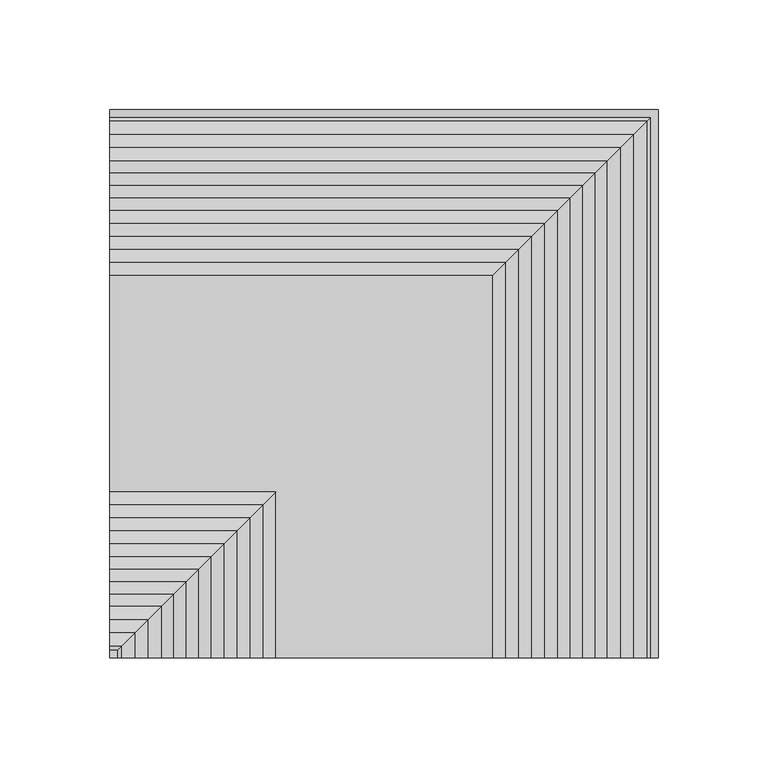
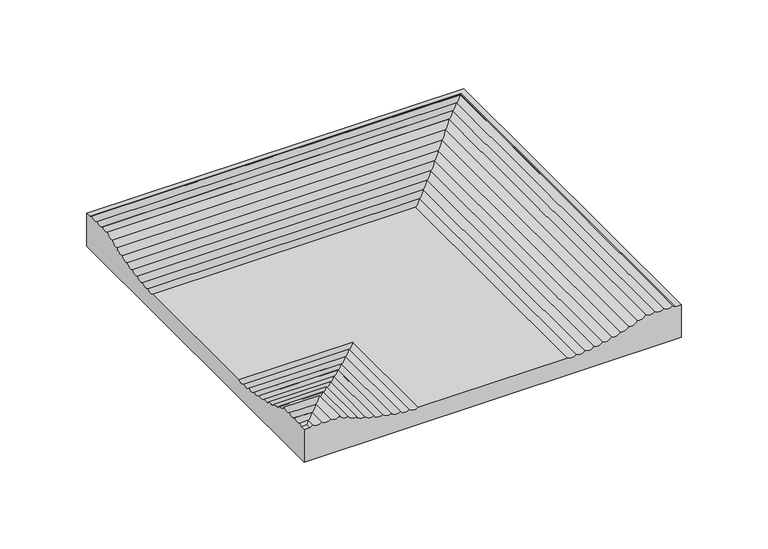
"""IFC4 building model written with IfcOpenShell, lengths in millimetres: proxy geometry, ROSA GRES_204 Esquina : Pieza 204_Aqua_Indubeige_Tecno."""

from ifc_helpers import new_model, si_unit, frame, origin, place, context, project, spatial, polyline, circle_curve, ellipse_curve, source, transform, mapped, element, save
from ifc_brep_helpers import plane_surface, revolved_surface, advanced_brep


def generic_models_6bb356cf(model_context):
    return source(origin(), model_context, "Body", "AdvancedBrep", [
        advanced_brep(
        [(0.0, 246.7435851, 22.8672484), (0.0, 250.2270236, 22.8672484), (0.0, 250.2270236, 0.0), (0.0, 0.0, 0.0), (0.0, 0.0, 22.8672484), (0.0, 3.4834385, 22.8672484), (0.0, 5.3933441, 24.1254722), (0.0, 11.4768535, 24.0443215), (0.0, 17.4838192, 24.0385354), (0.0, 23.5481555, 24.1126825), (0.0, 29.0929084, 21.702672), (0.0, 34.6740913, 19.6629784), (0.0, 40.406127, 17.7784107), (0.0, 46.146977, 16.2504407), (0.0, 52.0386105, 14.9241491), (0.0, 57.8759715, 13.8344915), (0.0, 63.8574067, 12.9927609), (0.0, 69.7580788, 12.3552884), (0.0, 75.6586011, 11.9299493), (0.0, 174.5684226, 11.9299493), (0.0, 180.4689448, 12.3552884), (0.0, 186.3696169, 12.9927609), (0.0, 192.3510521, 13.8344915), (0.0, 198.1884131, 14.9241491), (0.0, 204.0800466, 16.2504407), (0.0, 209.8208966, 17.7784107), (0.0, 215.5529324, 19.6629784), (0.0, 221.1341153, 21.702672), (0.0, 226.6788681, 24.1126825), (0.0, 232.7432044, 24.0385354), (0.0, 238.7501701, 24.0443215), (0.0, 244.8336795, 24.1254722), (246.7435851, 0.0, 22.8672484), (244.8336795, 0.0, 24.1254722), (238.7501701, 0.0, 24.0443215), (232.7432044, 0.0, 24.0385354), (226.6788681, 0.0, 24.1126825), (221.1341153, 0.0, 21.702672), (215.5529324, 0.0, 19.6629784), (209.8208966, 0.0, 17.7784107), (204.0800466, 0.0, 16.2504407), (198.1884131, 0.0, 14.9241491), (192.3510521, 0.0, 13.8344915), (186.3696169, 0.0, 12.9927609), (180.4689448, 0.0, 12.3552884), (174.5684226, 0.0, 11.9299493), (75.6586011, 0.0, 11.9299493), (69.7580788, 0.0, 12.3552884), (63.8574067, 0.0, 12.9927609), (57.8759715, 0.0, 13.8344915), (52.0386105, 0.0, 14.9241491), (46.146977, 0.0, 16.2504407), (40.406127, 0.0, 17.7784107), (34.6740913, 0.0, 19.6629784), (29.0929084, 0.0, 21.702672), (23.5481555, 0.0, 24.1126825), (17.4838192, 0.0, 24.0385354), (11.4768535, 0.0, 24.0443215), (5.3933441, 0.0, 24.1254722), (3.4834385, 0.0, 22.8672484), (250.2270236, 0.0, 0.0), (250.2270236, 0.0, 22.8672484), (246.7435851, 246.7435851, 22.8672484), (250.2270236, 250.2270236, 22.8672484), (250.2270236, 250.2270236, 0.0), (3.4834385, 3.4834385, 22.8672484), (5.3933441, 5.3933441, 24.1254722), (11.4768535, 11.4768535, 24.0443215), (17.4838192, 17.4838192, 24.0385354), (23.5481555, 23.5481555, 24.1126825), (29.0929084, 29.0929084, 21.702672), (34.6740913, 34.6740913, 19.6629784), (40.406127, 40.406127, 17.7784107), (46.146977, 46.146977, 16.2504407), (52.0386105, 52.0386105, 14.9241491), (57.8759715, 57.8759715, 13.8344915), (63.8574067, 63.8574067, 12.9927609), (69.7580788, 69.7580788, 12.3552884), (75.6586011, 75.6586011, 11.9299493), (174.5684226, 174.5684226, 11.9299493), (180.4689448, 180.4689448, 12.3552884), (186.3696169, 186.3696169, 12.9927609), (192.3510521, 192.3510521, 13.8344915), (198.1884131, 198.1884131, 14.9241491), (204.0800466, 204.0800466, 16.2504407), (209.8208966, 209.8208966, 17.7784107), (215.5529324, 215.5529324, 19.6629784), (221.1341153, 221.1341153, 21.702672), (226.6788681, 226.6788681, 24.1126825), (232.7432044, 232.7432044, 24.0385354), (238.7501701, 238.7501701, 24.0443215), (244.8336795, 244.8336795, 24.1254722)],
        [
            (0, 1),
            (1, 2),
            (2, 3),
            (3, 4),
            (4, 5),
            (5, 6, circle_curve(frame((0.0, 3.4834385, 24.9459193), z_axis=(1.0, 0.0, 0.0), x_axis=(0.0, 1.0, 0.0)), 2.078671)),
            (6, 7, circle_curve(frame((0.0, 8.4772441, 27.2443435), z_axis=(1.0, 0.0, 0.0), x_axis=(0.0, 1.0, 0.0)), 4.3860914)),
            (7, 8, circle_curve(frame((0.0, 14.4834385, 27.2619892), z_axis=(1.0, 0.0, 0.0), x_axis=(0.0, 1.0, 0.0)), 4.4037415)),
            (8, 9, circle_curve(frame((0.0, 20.4772441, 27.2443435), z_axis=(1.0, 0.0, 0.0), x_axis=(0.0, 1.0, 0.0)), 4.3860914)),
            (9, 10, circle_curve(frame((0.0, 27.5873515, 25.8222711), z_axis=(1.0, 0.0, 0.0), x_axis=(0.0, 1.0, 0.0)), 4.3860914)),
            (10, 11, circle_curve(frame((0.0, 32.9910112, 23.7132919), z_axis=(1.0, 0.0, 0.0), x_axis=(0.0, 1.0, 0.0)), 4.3860914)),
            (11, 12, circle_curve(frame((0.0, 38.5344705, 21.7451095), z_axis=(1.0, 0.0, 0.0), x_axis=(0.0, 1.0, 0.0)), 4.3860914)),
            (12, 13, circle_curve(frame((0.0, 44.1065968, 20.1330489), z_axis=(1.0, 0.0, 0.0), x_axis=(0.0, 1.0, 0.0)), 4.3860914)),
            (13, 14, circle_curve(frame((0.0, 49.7914497, 18.690854), z_axis=(1.0, 0.0, 0.0), x_axis=(0.0, 1.0, 0.0)), 4.3860914)),
            (14, 15, circle_curve(frame((0.0, 55.5496933, 17.5528551), z_axis=(1.0, 0.0, 0.0), x_axis=(0.0, 1.0, 0.0)), 4.3860914)),
            (15, 16, circle_curve(frame((0.0, 61.3099097, 16.563203), z_axis=(1.0, 0.0, 0.0), x_axis=(0.0, 1.0, 0.0)), 4.3860914)),
            (16, 17, circle_curve(frame((0.0, 67.1546539, 15.8851576), z_axis=(1.0, 0.0, 0.0), x_axis=(0.0, 1.0, 0.0)), 4.3860914)),
            (17, 18, circle_curve(frame((0.0, 72.9411902, 15.372837), z_axis=(1.0, 0.0, 0.0), x_axis=(0.0, 1.0, 0.0)), 4.3860914)),
            (18, 19),
            (19, 20, circle_curve(frame((0.0, 177.2858334, 15.372837), z_axis=(1.0, 0.0, 0.0), x_axis=(0.0, 1.0, 0.0)), 4.3860914)),
            (20, 21, circle_curve(frame((0.0, 183.0723697, 15.8851576), z_axis=(1.0, 0.0, 0.0), x_axis=(0.0, 1.0, 0.0)), 4.3860914)),
            (21, 22, circle_curve(frame((0.0, 188.917114, 16.563203), z_axis=(1.0, 0.0, 0.0), x_axis=(0.0, 1.0, 0.0)), 4.3860914)),
            (22, 23, circle_curve(frame((0.0, 194.6773303, 17.5528551), z_axis=(1.0, 0.0, 0.0), x_axis=(0.0, 1.0, 0.0)), 4.3860914)),
            (23, 24, circle_curve(frame((0.0, 200.435574, 18.690854), z_axis=(1.0, 0.0, 0.0), x_axis=(0.0, 1.0, 0.0)), 4.3860914)),
            (24, 25, circle_curve(frame((0.0, 206.1204268, 20.1330489), z_axis=(1.0, 0.0, 0.0), x_axis=(0.0, 1.0, 0.0)), 4.3860914)),
            (25, 26, circle_curve(frame((0.0, 211.6925532, 21.7451095), z_axis=(1.0, 0.0, 0.0), x_axis=(0.0, 1.0, 0.0)), 4.3860914)),
            (26, 27, circle_curve(frame((0.0, 217.2360124, 23.7132919), z_axis=(1.0, 0.0, 0.0), x_axis=(0.0, 1.0, 0.0)), 4.3860914)),
            (27, 28, circle_curve(frame((0.0, 222.6396721, 25.8222711), z_axis=(1.0, 0.0, 0.0), x_axis=(0.0, 1.0, 0.0)), 4.3860914)),
            (28, 29, circle_curve(frame((0.0, 229.7497795, 27.2443435), z_axis=(1.0, 0.0, 0.0), x_axis=(0.0, 1.0, 0.0)), 4.3860914)),
            (29, 30, circle_curve(frame((0.0, 235.7435851, 27.2619892), z_axis=(1.0, 0.0, 0.0), x_axis=(0.0, 1.0, 0.0)), 4.4037415)),
            (30, 31, circle_curve(frame((0.0, 241.7497795, 27.2443435), z_axis=(1.0, 0.0, 0.0), x_axis=(0.0, 1.0, 0.0)), 4.3860914)),
            (31, 0, circle_curve(frame((0.0, 246.7435851, 24.9459193), z_axis=(1.0, 0.0, 0.0), x_axis=(0.0, 1.0, 0.0)), 2.078671)),
            (32, 33, circle_curve(frame((246.7435851, 0.0, 24.9459193), z_axis=(0.0, 1.0, 0.0), x_axis=(1.0, 0.0, 0.0)), 2.078671)),
            (33, 34, circle_curve(frame((241.7497795, 0.0, 27.2443435), z_axis=(0.0, 1.0, 0.0), x_axis=(1.0, 0.0, 0.0)), 4.3860914)),
            (34, 35, circle_curve(frame((235.7435851, 0.0, 27.2619892), z_axis=(0.0, 1.0, 0.0), x_axis=(1.0, 0.0, 0.0)), 4.4037415)),
            (35, 36, circle_curve(frame((229.7497795, 0.0, 27.2443435), z_axis=(0.0, 1.0, 0.0), x_axis=(1.0, 0.0, 0.0)), 4.3860914)),
            (36, 37, circle_curve(frame((222.6396721, 0.0, 25.8222711), z_axis=(0.0, 1.0, 0.0), x_axis=(1.0, 0.0, 0.0)), 4.3860914)),
            (37, 38, circle_curve(frame((217.2360124, 0.0, 23.7132919), z_axis=(0.0, 1.0, 0.0), x_axis=(1.0, 0.0, 0.0)), 4.3860914)),
            (38, 39, circle_curve(frame((211.6925532, 0.0, 21.7451095), z_axis=(0.0, 1.0, 0.0), x_axis=(1.0, 0.0, 0.0)), 4.3860914)),
            (39, 40, circle_curve(frame((206.1204268, 0.0, 20.1330489), z_axis=(0.0, 1.0, 0.0), x_axis=(1.0, 0.0, 0.0)), 4.3860914)),
            (40, 41, circle_curve(frame((200.435574, 0.0, 18.690854), z_axis=(0.0, 1.0, 0.0), x_axis=(1.0, 0.0, 0.0)), 4.3860914)),
            (41, 42, circle_curve(frame((194.6773303, 0.0, 17.5528551), z_axis=(0.0, 1.0, 0.0), x_axis=(1.0, 0.0, 0.0)), 4.3860914)),
            (42, 43, circle_curve(frame((188.917114, 0.0, 16.563203), z_axis=(0.0, 1.0, 0.0), x_axis=(1.0, 0.0, 0.0)), 4.3860914)),
            (43, 44, circle_curve(frame((183.0723697, 0.0, 15.8851576), z_axis=(0.0, 1.0, 0.0), x_axis=(1.0, 0.0, 0.0)), 4.3860914)),
            (44, 45, circle_curve(frame((177.2858334, 0.0, 15.372837), z_axis=(0.0, 1.0, 0.0), x_axis=(1.0, 0.0, 0.0)), 4.3860914)),
            (45, 46),
            (46, 47, circle_curve(frame((72.9411902, 0.0, 15.372837), z_axis=(0.0, 1.0, 0.0), x_axis=(1.0, 0.0, 0.0)), 4.3860914)),
            (47, 48, circle_curve(frame((67.1546539, 0.0, 15.8851576), z_axis=(0.0, 1.0, 0.0), x_axis=(1.0, 0.0, 0.0)), 4.3860914)),
            (48, 49, circle_curve(frame((61.3099097, 0.0, 16.563203), z_axis=(0.0, 1.0, 0.0), x_axis=(1.0, 0.0, 0.0)), 4.3860914)),
            (49, 50, circle_curve(frame((55.5496933, 0.0, 17.5528551), z_axis=(0.0, 1.0, 0.0), x_axis=(1.0, 0.0, 0.0)), 4.3860914)),
            (50, 51, circle_curve(frame((49.7914497, 0.0, 18.690854), z_axis=(0.0, 1.0, 0.0), x_axis=(1.0, 0.0, 0.0)), 4.3860914)),
            (51, 52, circle_curve(frame((44.1065968, 0.0, 20.1330489), z_axis=(0.0, 1.0, 0.0), x_axis=(1.0, 0.0, 0.0)), 4.3860914)),
            (52, 53, circle_curve(frame((38.5344705, 0.0, 21.7451095), z_axis=(0.0, 1.0, 0.0), x_axis=(1.0, 0.0, 0.0)), 4.3860914)),
            (53, 54, circle_curve(frame((32.9910112, 0.0, 23.7132919), z_axis=(0.0, 1.0, 0.0), x_axis=(1.0, 0.0, 0.0)), 4.3860914)),
            (54, 55, circle_curve(frame((27.5873515, 0.0, 25.8222711), z_axis=(0.0, 1.0, 0.0), x_axis=(1.0, 0.0, 0.0)), 4.3860914)),
            (55, 56, circle_curve(frame((20.4772441, 0.0, 27.2443435), z_axis=(0.0, 1.0, 0.0), x_axis=(1.0, 0.0, 0.0)), 4.3860914)),
            (56, 57, circle_curve(frame((14.4834385, 0.0, 27.2619892), z_axis=(0.0, 1.0, 0.0), x_axis=(1.0, 0.0, 0.0)), 4.4037415)),
            (57, 58, circle_curve(frame((8.4772441, 0.0, 27.2443435), z_axis=(0.0, 1.0, 0.0), x_axis=(1.0, 0.0, 0.0)), 4.3860914)),
            (58, 59, circle_curve(frame((3.4834385, 0.0, 24.9459193), z_axis=(0.0, 1.0, 0.0), x_axis=(1.0, 0.0, 0.0)), 2.078671)),
            (59, 4),
            (3, 60),
            (60, 61),
            (61, 32),
            (0, 62),
            (62, 32),
            (61, 63),
            (63, 1),
            (63, 64),
            (64, 2),
            (64, 60),
            (59, 65),
            (65, 5),
            (65, 66, ellipse_curve(frame((3.4834385, 3.4834385, 24.9459193), z_axis=(0.707106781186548, -0.7071067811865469, 0.0), x_axis=(0.7071067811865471, 0.7071067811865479, 0.0)), 2.9396847, 2.078671)),
            (66, 6),
            (66, 67, ellipse_curve(frame((8.4772441, 8.4772441, 27.2443435), z_axis=(0.707106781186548, -0.7071067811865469, 0.0), x_axis=(0.7071067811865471, 0.7071067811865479, 0.0)), 6.20287, 4.3860914)),
            (67, 7),
            (67, 68, ellipse_curve(frame((14.4834385, 14.4834385, 27.2619892), z_axis=(0.707106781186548, -0.7071067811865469, 0.0), x_axis=(0.7071067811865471, 0.7071067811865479, 0.0)), 6.2278309, 4.4037415)),
            (68, 8),
            (68, 69, ellipse_curve(frame((20.4772441, 20.4772441, 27.2443435), z_axis=(0.707106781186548, -0.7071067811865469, 0.0), x_axis=(0.7071067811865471, 0.7071067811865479, 0.0)), 6.20287, 4.3860914)),
            (69, 9),
            (69, 70, ellipse_curve(frame((27.5873515, 27.5873515, 25.8222711), z_axis=(0.707106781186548, -0.7071067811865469, 0.0), x_axis=(0.7071067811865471, 0.7071067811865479, 0.0)), 6.20287, 4.3860914)),
            (70, 10),
            (70, 71, ellipse_curve(frame((32.9910112, 32.9910112, 23.7132919), z_axis=(0.707106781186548, -0.7071067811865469, 0.0), x_axis=(0.7071067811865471, 0.7071067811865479, 0.0)), 6.20287, 4.3860914)),
            (71, 11),
            (71, 72, ellipse_curve(frame((38.5344705, 38.5344705, 21.7451095), z_axis=(0.707106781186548, -0.7071067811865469, 0.0), x_axis=(0.7071067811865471, 0.7071067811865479, 0.0)), 6.20287, 4.3860914)),
            (72, 12),
            (72, 73, ellipse_curve(frame((44.1065968, 44.1065968, 20.1330489), z_axis=(0.707106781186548, -0.7071067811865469, 0.0), x_axis=(0.7071067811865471, 0.7071067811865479, 0.0)), 6.20287, 4.3860914)),
            (73, 13),
            (73, 74, ellipse_curve(frame((49.7914497, 49.7914497, 18.690854), z_axis=(0.707106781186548, -0.7071067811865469, 0.0), x_axis=(0.7071067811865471, 0.7071067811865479, 0.0)), 6.20287, 4.3860914)),
            (74, 14),
            (74, 75, ellipse_curve(frame((55.5496933, 55.5496933, 17.5528551), z_axis=(0.707106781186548, -0.7071067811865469, 0.0), x_axis=(0.7071067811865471, 0.7071067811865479, 0.0)), 6.20287, 4.3860914)),
            (75, 15),
            (75, 76, ellipse_curve(frame((61.3099097, 61.3099097, 16.563203), z_axis=(0.707106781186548, -0.7071067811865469, 0.0), x_axis=(0.7071067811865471, 0.7071067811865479, 0.0)), 6.20287, 4.3860914)),
            (76, 16),
            (76, 77, ellipse_curve(frame((67.1546539, 67.1546539, 15.8851576), z_axis=(0.707106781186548, -0.7071067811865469, 0.0), x_axis=(0.7071067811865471, 0.7071067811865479, 0.0)), 6.20287, 4.3860914)),
            (77, 17),
            (77, 78, ellipse_curve(frame((72.9411902, 72.9411902, 15.372837), z_axis=(0.707106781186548, -0.7071067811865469, 0.0), x_axis=(0.7071067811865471, 0.7071067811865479, 0.0)), 6.20287, 4.3860914)),
            (78, 18),
            (78, 46),
            (45, 79),
            (79, 19),
            (79, 80, ellipse_curve(frame((177.2858334, 177.2858334, 15.372837), z_axis=(0.707106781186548, -0.7071067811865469, 0.0), x_axis=(0.7071067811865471, 0.7071067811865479, 0.0)), 6.20287, 4.3860914)),
            (80, 20),
            (80, 81, ellipse_curve(frame((183.0723697, 183.0723697, 15.8851576), z_axis=(0.707106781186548, -0.7071067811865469, 0.0), x_axis=(0.7071067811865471, 0.7071067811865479, 0.0)), 6.20287, 4.3860914)),
            (81, 21),
            (81, 82, ellipse_curve(frame((188.917114, 188.917114, 16.563203), z_axis=(0.707106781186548, -0.7071067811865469, 0.0), x_axis=(0.7071067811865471, 0.7071067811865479, 0.0)), 6.20287, 4.3860914)),
            (82, 22),
            (82, 83, ellipse_curve(frame((194.6773303, 194.6773303, 17.5528551), z_axis=(0.707106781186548, -0.7071067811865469, 0.0), x_axis=(0.7071067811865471, 0.7071067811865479, 0.0)), 6.20287, 4.3860914)),
            (83, 23),
            (83, 84, ellipse_curve(frame((200.435574, 200.435574, 18.690854), z_axis=(0.707106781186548, -0.7071067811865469, 0.0), x_axis=(0.7071067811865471, 0.7071067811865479, 0.0)), 6.20287, 4.3860914)),
            (84, 24),
            (84, 85, ellipse_curve(frame((206.1204268, 206.1204268, 20.1330489), z_axis=(0.707106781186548, -0.7071067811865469, 0.0), x_axis=(0.7071067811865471, 0.7071067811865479, 0.0)), 6.20287, 4.3860914)),
            (85, 25),
            (85, 86, ellipse_curve(frame((211.6925532, 211.6925532, 21.7451095), z_axis=(0.707106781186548, -0.7071067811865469, 0.0), x_axis=(0.7071067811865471, 0.7071067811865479, 0.0)), 6.20287, 4.3860914)),
            (86, 26),
            (86, 87, ellipse_curve(frame((217.2360124, 217.2360124, 23.7132919), z_axis=(0.707106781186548, -0.7071067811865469, 0.0), x_axis=(0.7071067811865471, 0.7071067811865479, 0.0)), 6.20287, 4.3860914)),
            (87, 27),
            (87, 88, ellipse_curve(frame((222.6396721, 222.6396721, 25.8222711), z_axis=(0.707106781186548, -0.7071067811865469, 0.0), x_axis=(0.7071067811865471, 0.7071067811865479, 0.0)), 6.20287, 4.3860914)),
            (88, 28),
            (88, 89, ellipse_curve(frame((229.7497795, 229.7497795, 27.2443435), z_axis=(0.707106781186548, -0.7071067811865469, 0.0), x_axis=(0.7071067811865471, 0.7071067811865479, 0.0)), 6.20287, 4.3860914)),
            (89, 29),
            (89, 90, ellipse_curve(frame((235.7435851, 235.7435851, 27.2619892), z_axis=(0.707106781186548, -0.7071067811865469, 0.0), x_axis=(0.7071067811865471, 0.7071067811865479, 0.0)), 6.2278309, 4.4037415)),
            (90, 30),
            (90, 91, ellipse_curve(frame((241.7497795, 241.7497795, 27.2443435), z_axis=(0.707106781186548, -0.7071067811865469, 0.0), x_axis=(0.7071067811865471, 0.7071067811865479, 0.0)), 6.20287, 4.3860914)),
            (91, 31),
            (91, 62, ellipse_curve(frame((246.7435851, 246.7435851, 24.9459193), z_axis=(0.707106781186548, -0.7071067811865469, 0.0), x_axis=(0.7071067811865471, 0.7071067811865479, 0.0)), 2.9396847, 2.078671)),
            (58, 66),
            (57, 67),
            (56, 68),
            (55, 69),
            (54, 70),
            (53, 71),
            (52, 72),
            (51, 73),
            (50, 74),
            (49, 75),
            (48, 76),
            (47, 77),
            (44, 80),
            (43, 81),
            (42, 82),
            (41, 83),
            (40, 84),
            (39, 85),
            (38, 86),
            (37, 87),
            (36, 88),
            (35, 89),
            (34, 90),
            (33, 91),
        ],
        [
            plane_surface(frame((0.0, 250.0, 0.0), z_axis=(-1.0, 0.0, 0.0), x_axis=(0.0, 0.0, 1.0))),
            plane_surface(frame((250.0, 0.0, 0.0), z_axis=(0.0, -1.0, 0.0), x_axis=(0.0, 0.0, 1.0))),
            plane_surface(frame((0.0, 246.7435851, 22.8672484), z_axis=(0.0, 0.0, 1.0), x_axis=(1.0, 0.0, 0.0))),
            plane_surface(frame((0.0, 250.2270236, 22.8672484), z_axis=(0.0, 1.0, 0.0), x_axis=(1.0, 0.0, 0.0))),
            plane_surface(frame((0.0, 250.2270236, 0.0), z_axis=(0.0, 0.0, -1.0), x_axis=(1.0, 0.0, 0.0))),
            plane_surface(frame((0.0, 0.0, 22.8672484), z_axis=(0.0, -4.293775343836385e-12, 1.0), x_axis=(1.0, 0.0, 0.0))),
            revolved_surface(polyline([(5.56210948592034, 5.5621095, 24.9459193), (0.0, 5.5621095, 24.9459193)]), (0.0, 3.4834385, 24.9459193), (1.0, 0.0, 0.0)),
            revolved_surface(polyline([(12.863335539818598, 12.8633355, 27.2443435), (0.0, 12.8633355, 27.2443435)]), (0.0, 8.4772441, 27.2443435), (1.0, 0.0, 0.0)),
            revolved_surface(polyline([(18.887179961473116, 18.88718, 27.2619892), (0.0, 18.88718, 27.2619892)]), (0.0, 14.4834385, 27.2619892), (1.0, 0.0, 0.0)),
            revolved_surface(polyline([(24.8633355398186, 24.863335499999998, 27.2443435), (0.0, 24.863335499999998, 27.2443435)]), (0.0, 20.4772441, 27.2443435), (1.0, 0.0, 0.0)),
            revolved_surface(polyline([(31.973442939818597, 31.973442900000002, 25.8222711), (0.0, 31.973442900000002, 25.8222711)]), (0.0, 27.5873515, 25.8222711), (1.0, 0.0, 0.0)),
            revolved_surface(polyline([(37.3771026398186, 37.3771026, 23.7132919), (0.0, 37.3771026, 23.7132919)]), (0.0, 32.9910112, 23.7132919), (1.0, 0.0, 0.0)),
            revolved_surface(polyline([(42.9205619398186, 42.920561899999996, 21.7451095), (0.0, 42.920561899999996, 21.7451095)]), (0.0, 38.5344705, 21.7451095), (1.0, 0.0, 0.0)),
            revolved_surface(polyline([(48.4926882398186, 48.492688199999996, 20.1330489), (0.0, 48.492688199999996, 20.1330489)]), (0.0, 44.1065968, 20.1330489), (1.0, 0.0, 0.0)),
            revolved_surface(polyline([(54.1775411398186, 54.1775411, 18.690854), (0.0, 54.1775411, 18.690854)]), (0.0, 49.7914497, 18.690854), (1.0, 0.0, 0.0)),
            revolved_surface(polyline([(59.9357847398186, 59.9357847, 17.5528551), (0.0, 59.9357847, 17.5528551)]), (0.0, 55.5496933, 17.5528551), (1.0, 0.0, 0.0)),
            revolved_surface(polyline([(65.69600113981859, 65.6960011, 16.563203), (0.0, 65.6960011, 16.563203)]), (0.0, 61.3099097, 16.563203), (1.0, 0.0, 0.0)),
            revolved_surface(polyline([(71.5407453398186, 71.5407453, 15.8851576), (0.0, 71.5407453, 15.8851576)]), (0.0, 67.1546539, 15.8851576), (1.0, 0.0, 0.0)),
            revolved_surface(polyline([(77.3272816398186, 77.32728159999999, 15.372837), (0.0, 77.32728159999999, 15.372837)]), (0.0, 72.9411902, 15.372837), (1.0, 0.0, 0.0)),
            plane_surface(frame((0.0, 75.6586011, 11.9299493), z_axis=(0.0, 0.0, 1.0), x_axis=(1.0, 0.0, 0.0))),
            revolved_surface(polyline([(181.6719248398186, 181.6719248, 15.372837), (0.0, 181.6719248, 15.372837)]), (0.0, 177.2858334, 15.372837), (1.0, 0.0, 0.0)),
            revolved_surface(polyline([(187.45846113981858, 187.4584611, 15.8851576), (0.0, 187.4584611, 15.8851576)]), (0.0, 183.0723697, 15.8851576), (1.0, 0.0, 0.0)),
            revolved_surface(polyline([(193.30320543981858, 193.3032054, 16.563203), (0.0, 193.3032054, 16.563203)]), (0.0, 188.917114, 16.563203), (1.0, 0.0, 0.0)),
            revolved_surface(polyline([(199.06342173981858, 199.0634217, 17.5528551), (0.0, 199.0634217, 17.5528551)]), (0.0, 194.6773303, 17.5528551), (1.0, 0.0, 0.0)),
            revolved_surface(polyline([(204.8216654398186, 204.8216654, 18.690854), (0.0, 204.8216654, 18.690854)]), (0.0, 200.435574, 18.690854), (1.0, 0.0, 0.0)),
            revolved_surface(polyline([(210.50651823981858, 210.5065182, 20.1330489), (0.0, 210.5065182, 20.1330489)]), (0.0, 206.1204268, 20.1330489), (1.0, 0.0, 0.0)),
            revolved_surface(polyline([(216.07864463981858, 216.0786446, 21.7451095), (0.0, 216.0786446, 21.7451095)]), (0.0, 211.6925532, 21.7451095), (1.0, 0.0, 0.0)),
            revolved_surface(polyline([(221.62210383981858, 221.6221038, 23.7132919), (0.0, 221.6221038, 23.7132919)]), (0.0, 217.2360124, 23.7132919), (1.0, 0.0, 0.0)),
            revolved_surface(polyline([(227.0257635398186, 227.0257635, 25.8222711), (0.0, 227.0257635, 25.8222711)]), (0.0, 222.6396721, 25.8222711), (1.0, 0.0, 0.0)),
            revolved_surface(polyline([(234.13587093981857, 234.1358709, 27.2443435), (0.0, 234.1358709, 27.2443435)]), (0.0, 229.7497795, 27.2443435), (1.0, 0.0, 0.0)),
            revolved_surface(polyline([(240.1473265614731, 240.14732659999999, 27.2619892), (0.0, 240.14732659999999, 27.2619892)]), (0.0, 235.7435851, 27.2619892), (1.0, 0.0, 0.0)),
            revolved_surface(polyline([(246.13587093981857, 246.1358709, 27.2443435), (0.0, 246.1358709, 27.2443435)]), (0.0, 241.7497795, 27.2443435), (1.0, 0.0, 0.0)),
            revolved_surface(polyline([(248.82225608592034, 248.8222561, 24.9459193), (0.0, 248.8222561, 24.9459193)]), (0.0, 246.7435851, 24.9459193), (1.0, 0.0, 0.0)),
            plane_surface(frame((250.2270236, 250.2270236, 22.8672484), z_axis=(1.0, 0.0, 0.0), x_axis=(0.0, -1.0, 0.0))),
            revolved_surface(polyline([(5.5621095, 0.0, 24.9459193), (5.5621095, 5.5621094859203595, 24.9459193)]), (3.4834385, 250.0, 24.9459193), (0.0, -1.0, 0.0)),
            revolved_surface(polyline([(12.8633355, 0.0, 27.2443435), (12.8633355, 12.863335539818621, 27.2443435)]), (8.4772441, 250.0, 27.2443435), (0.0, -1.0, 0.0)),
            revolved_surface(polyline([(18.88718, 0.0, 27.2619892), (18.88718, 18.887179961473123, 27.2619892)]), (14.4834385, 250.0, 27.2619892), (0.0, -1.0, 0.0)),
            revolved_surface(polyline([(24.863335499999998, 0.0, 27.2443435), (24.863335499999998, 24.86333553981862, 27.2443435)]), (20.4772441, 250.0, 27.2443435), (0.0, -1.0, 0.0)),
            revolved_surface(polyline([(31.973442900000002, 0.0, 25.8222711), (31.973442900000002, 31.973442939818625, 25.8222711)]), (27.5873515, 250.0, 25.8222711), (0.0, -1.0, 0.0)),
            revolved_surface(polyline([(37.3771026, 0.0, 23.7132919), (37.3771026, 37.37710263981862, 23.7132919)]), (32.9910112, 250.0, 23.7132919), (0.0, -1.0, 0.0)),
            revolved_surface(polyline([(42.920561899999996, 0.0, 21.7451095), (42.920561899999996, 42.92056193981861, 21.7451095)]), (38.5344705, 250.0, 21.7451095), (0.0, -1.0, 0.0)),
            revolved_surface(polyline([(48.492688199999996, 0.0, 20.1330489), (48.492688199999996, 48.49268823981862, 20.1330489)]), (44.1065968, 250.0, 20.1330489), (0.0, -1.0, 0.0)),
            revolved_surface(polyline([(54.1775411, 0.0, 18.690854), (54.1775411, 54.1775411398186, 18.690854)]), (49.7914497, 250.0, 18.690854), (0.0, -1.0, 0.0)),
            revolved_surface(polyline([(59.9357847, 0.0, 17.5528551), (59.9357847, 59.935784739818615, 17.5528551)]), (55.5496933, 250.0, 17.5528551), (0.0, -1.0, 0.0)),
            revolved_surface(polyline([(65.6960011, 0.0, 16.563203), (65.6960011, 65.6960011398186, 16.563203)]), (61.3099097, 250.0, 16.563203), (0.0, -1.0, 0.0)),
            revolved_surface(polyline([(71.5407453, 0.0, 15.8851576), (71.5407453, 71.54074533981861, 15.8851576)]), (67.1546539, 250.0, 15.8851576), (0.0, -1.0, 0.0)),
            revolved_surface(polyline([(77.32728159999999, 0.0, 15.372837), (77.32728159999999, 77.32728163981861, 15.372837)]), (72.9411902, 250.0, 15.372837), (0.0, -1.0, 0.0)),
            revolved_surface(polyline([(181.6719248, 0.0, 15.372837), (181.6719248, 181.6719248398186, 15.372837)]), (177.2858334, 250.0, 15.372837), (0.0, -1.0, 0.0)),
            revolved_surface(polyline([(187.4584611, 0.0, 15.8851576), (187.4584611, 187.4584611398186, 15.8851576)]), (183.0723697, 250.0, 15.8851576), (0.0, -1.0, 0.0)),
            revolved_surface(polyline([(193.3032054, 0.0, 16.563203), (193.3032054, 193.3032054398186, 16.563203)]), (188.917114, 250.0, 16.563203), (0.0, -1.0, 0.0)),
            revolved_surface(polyline([(199.0634217, 0.0, 17.5528551), (199.0634217, 199.06342173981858, 17.5528551)]), (194.6773303, 250.0, 17.5528551), (0.0, -1.0, 0.0)),
            revolved_surface(polyline([(204.8216654, 0.0, 18.690854), (204.8216654, 204.82166543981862, 18.690854)]), (200.435574, 250.0, 18.690854), (0.0, -1.0, 0.0)),
            revolved_surface(polyline([(210.5065182, 0.0, 20.1330489), (210.5065182, 210.5065182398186, 20.1330489)]), (206.1204268, 250.0, 20.1330489), (0.0, -1.0, 0.0)),
            revolved_surface(polyline([(216.0786446, 0.0, 21.7451095), (216.0786446, 216.0786446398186, 21.7451095)]), (211.6925532, 250.0, 21.7451095), (0.0, -1.0, 0.0)),
            revolved_surface(polyline([(221.6221038, 0.0, 23.7132919), (221.6221038, 221.6221038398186, 23.7132919)]), (217.2360124, 250.0, 23.7132919), (0.0, -1.0, 0.0)),
            revolved_surface(polyline([(227.0257635, 0.0, 25.8222711), (227.0257635, 227.02576353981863, 25.8222711)]), (222.6396721, 250.0, 25.8222711), (0.0, -1.0, 0.0)),
            revolved_surface(polyline([(234.1358709, 0.0, 27.2443435), (234.1358709, 234.1358709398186, 27.2443435)]), (229.7497795, 250.0, 27.2443435), (0.0, -1.0, 0.0)),
            revolved_surface(polyline([(240.14732659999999, 0.0, 27.2619892), (240.14732659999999, 240.1473265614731, 27.2619892)]), (235.7435851, 250.0, 27.2619892), (0.0, -1.0, 0.0)),
            revolved_surface(polyline([(246.1358709, 0.0, 27.2443435), (246.1358709, 246.1358709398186, 27.2443435)]), (241.7497795, 250.0, 27.2443435), (0.0, -1.0, 0.0)),
            revolved_surface(polyline([(248.8222561, 0.0, 24.9459193), (248.8222561, 248.82225608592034, 24.9459193)]), (246.7435851, 250.0, 24.9459193), (0.0, -1.0, 0.0)),
        ],
        [
            (0, [[1, 2, 3, 4, 5, 6, 7, 8, 9, 10, 11, 12, 13, 14, 15, 16, 17, 18, 19, 20, 21, 22, 23, 24, 25, 26, 27, 28, 29, 30, 31, 32]]),
            (1, [[33, 34, 35, 36, 37, 38, 39, 40, 41, 42, 43, 44, 45, 46, 47, 48, 49, 50, 51, 52, 53, 54, 55, 56, 57, 58, 59, 60, -4, 61, 62, 63]]),
            (2, [[-1, 64, 65, -63, 66, 67]]),
            (3, [[-2, -67, 68, 69]]),
            (4, [[-3, -69, 70, -61]]),
            (5, [[-5, -60, 71, 72]]),
            (6, [[-6, -72, 73, 74]]),
            (7, [[-7, -74, 75, 76]]),
            (8, [[-8, -76, 77, 78]]),
            (9, [[-9, -78, 79, 80]]),
            (10, [[-10, -80, 81, 82]]),
            (11, [[-11, -82, 83, 84]]),
            (12, [[-12, -84, 85, 86]]),
            (13, [[-13, -86, 87, 88]]),
            (14, [[-14, -88, 89, 90]]),
            (15, [[-15, -90, 91, 92]]),
            (16, [[-16, -92, 93, 94]]),
            (17, [[-17, -94, 95, 96]]),
            (18, [[-18, -96, 97, 98]]),
            (19, [[-19, -98, 99, -46, 100, 101]]),
            (20, [[-20, -101, 102, 103]]),
            (21, [[-21, -103, 104, 105]]),
            (22, [[-22, -105, 106, 107]]),
            (23, [[-23, -107, 108, 109]]),
            (24, [[-24, -109, 110, 111]]),
            (25, [[-25, -111, 112, 113]]),
            (26, [[-26, -113, 114, 115]]),
            (27, [[-27, -115, 116, 117]]),
            (28, [[-28, -117, 118, 119]]),
            (29, [[-29, -119, 120, 121]]),
            (30, [[-30, -121, 122, 123]]),
            (31, [[-31, -123, 124, 125]]),
            (32, [[-32, -125, 126, -64]]),
            (33, [[-68, -66, -62, -70]]),
            (34, [[-73, -71, -59, 127]]),
            (35, [[-75, -127, -58, 128]]),
            (36, [[-77, -128, -57, 129]]),
            (37, [[-79, -129, -56, 130]]),
            (38, [[-81, -130, -55, 131]]),
            (39, [[-83, -131, -54, 132]]),
            (40, [[-85, -132, -53, 133]]),
            (41, [[-87, -133, -52, 134]]),
            (42, [[-89, -134, -51, 135]]),
            (43, [[-91, -135, -50, 136]]),
            (44, [[-93, -136, -49, 137]]),
            (45, [[-95, -137, -48, 138]]),
            (46, [[-97, -138, -47, -99]]),
            (47, [[-102, -100, -45, 139]]),
            (48, [[-104, -139, -44, 140]]),
            (49, [[-106, -140, -43, 141]]),
            (50, [[-108, -141, -42, 142]]),
            (51, [[-110, -142, -41, 143]]),
            (52, [[-112, -143, -40, 144]]),
            (53, [[-114, -144, -39, 145]]),
            (54, [[-116, -145, -38, 146]]),
            (55, [[-118, -146, -37, 147]]),
            (56, [[-120, -147, -36, 148]]),
            (57, [[-122, -148, -35, 149]]),
            (58, [[-124, -149, -34, 150]]),
            (59, [[-126, -150, -33, -65]]),
        ],
    ),
    ])


if __name__ == "__main__":
    model = new_model("IFC4")
    model_context = context("Model", 3, world=origin())
    ifc_project = project(units=[si_unit("LENGTHUNIT", "METRE", prefix="MILLI")], contexts=[model_context])
    site = spatial("IfcSite", under=ifc_project)
    building = spatial("IfcBuilding", under=site)
    placement = place(None, origin())
    generic_models_shape = generic_models_6bb356cf(model_context)
    element("IfcBuildingElementProxy", 1, Name="ROSA GRES_204 Esquina : Pieza 204_Aqua_Indubeige_Tecno", ObjectType="ROSA GRES_204 Esquina : Pieza 204_Aqua_Indubeige_Tecno", at=placement, inside=building, context=model_context, shape_type="MappedRepresentation", body=[
        mapped(generic_models_shape, transform((0.0, 0.0, 0.0), x_axis=(1.0, 0.0, 0.0), y_axis=(0.0, 1.0, 0.0), z_axis=(0.0, 0.0, 1.0))),
    ])
    save(model, "model.ifc")
